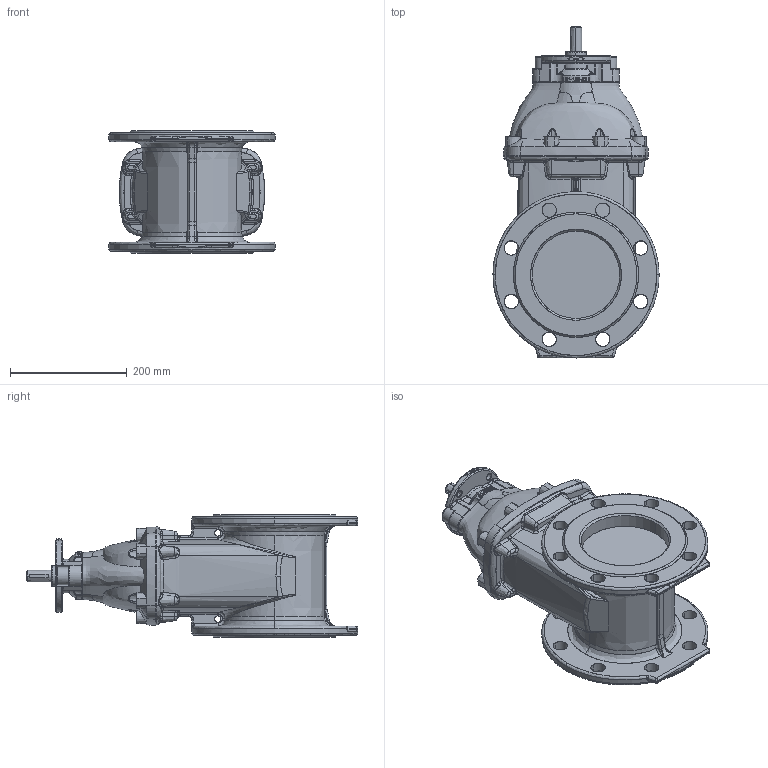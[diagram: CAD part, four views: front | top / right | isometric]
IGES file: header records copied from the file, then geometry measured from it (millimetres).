
Start section: SolidWorks IGES file using analytic representation for surfaces
Global section: file name: C:\outline drawing\15-42\1515042016\1515042016.IGS; native system: SolidWorks 2008; preprocessor: SolidWorks 2008; author: ch_xmm; date: 100923.102745; units: millimetre
Bounding box: 285 x 569.5 x 210 mm (x, y, z)
Surface area: 583680.6 mm2 (no closed solid volume)
Topology: 0 solids, 0 shells, 1530 faces, 18621 edges, 18555 vertices
Faces by surface type: bspline 1184, revolution 346
